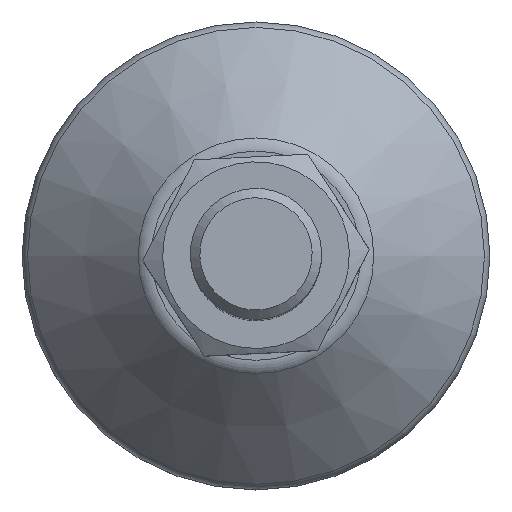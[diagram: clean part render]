
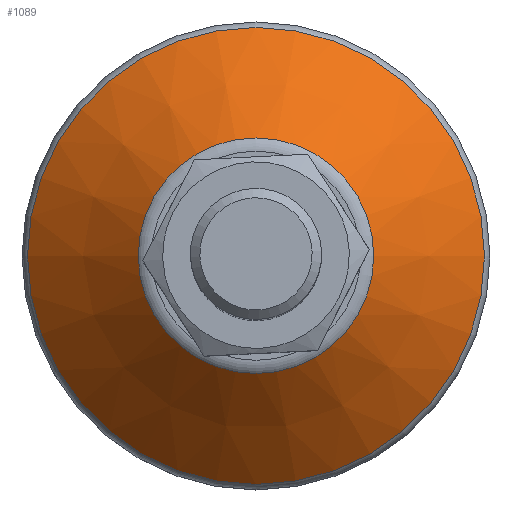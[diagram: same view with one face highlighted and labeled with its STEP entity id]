
A CAD part, top view. The second image highlights one B-rep face of the part: STEP entity #1089.
In plain terms, the highlighted conical face has half-angle 45 degrees and reference radius 18.5 mm.
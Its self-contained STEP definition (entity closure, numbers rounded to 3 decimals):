
#1089=ADVANCED_FACE('',(#2646,#2648),#2650,.T.);
#2646=FACE_BOUND('',#2647,.T.);
#2647=EDGE_LOOP('',(#3874,#3875));
#2648=FACE_BOUND('',#2649,.T.);
#2649=EDGE_LOOP('',(#3876,#3877));
#2650=CONICAL_SURFACE('',#2651,18.5,0.785);
#2651=AXIS2_PLACEMENT_3D('',#2652,#2653,#2654);
#2652=CARTESIAN_POINT('',(0.,0.,11.5));
#2653=DIRECTION('',(0.,0.,-1.));
#2654=DIRECTION('',(1.,0.,0.));
#3874=ORIENTED_EDGE('',*,*,#4615,.T.);
#3875=ORIENTED_EDGE('',*,*,#4614,.T.);
#3876=ORIENTED_EDGE('',*,*,#4618,.F.);
#3877=ORIENTED_EDGE('',*,*,#4619,.F.);
#4614=EDGE_CURVE('',#5336,#5337,#5338,.T.);
#4615=EDGE_CURVE('',#5337,#5336,#5339,.T.);
#4618=EDGE_CURVE('',#5344,#5345,#5346,.T.);
#4619=EDGE_CURVE('',#5345,#5344,#5347,.T.);
#5336=VERTEX_POINT('',#7997);
#5337=VERTEX_POINT('',#7998);
#5338=CIRCLE('',#7999,24.414);
#5339=CIRCLE('',#8003,24.414);
#5344=VERTEX_POINT('',#8017);
#5345=VERTEX_POINT('',#8018);
#5346=CIRCLE('',#8019,12.586);
#5347=CIRCLE('',#8023,12.586);
#7997=CARTESIAN_POINT('',(-24.414,0.,5.586));
#7998=CARTESIAN_POINT('',(24.414,0.,5.586));
#7999=AXIS2_PLACEMENT_3D('',#8000,#8001,#8002);
#8000=CARTESIAN_POINT('',(0.,0.,5.586));
#8001=DIRECTION('',(0.,0.,1.));
#8002=DIRECTION('',(-1.,0.,0.));
#8003=AXIS2_PLACEMENT_3D('',#8004,#8005,#8006);
#8004=CARTESIAN_POINT('',(0.,0.,5.586));
#8005=DIRECTION('',(0.,0.,1.));
#8006=DIRECTION('',(1.,0.,0.));
#8017=CARTESIAN_POINT('',(-12.586,0.,17.414));
#8018=CARTESIAN_POINT('',(12.586,0.,17.414));
#8019=AXIS2_PLACEMENT_3D('',#8020,#8021,#8022);
#8020=CARTESIAN_POINT('',(0.,0.,17.414));
#8021=DIRECTION('',(0.,0.,1.));
#8022=DIRECTION('',(-1.,0.,0.));
#8023=AXIS2_PLACEMENT_3D('',#8024,#8025,#8026);
#8024=CARTESIAN_POINT('',(0.,0.,17.414));
#8025=DIRECTION('',(0.,0.,1.));
#8026=DIRECTION('',(1.,0.,0.));
